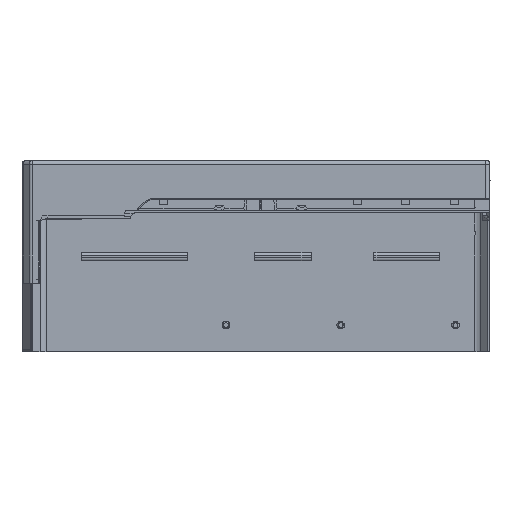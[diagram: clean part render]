
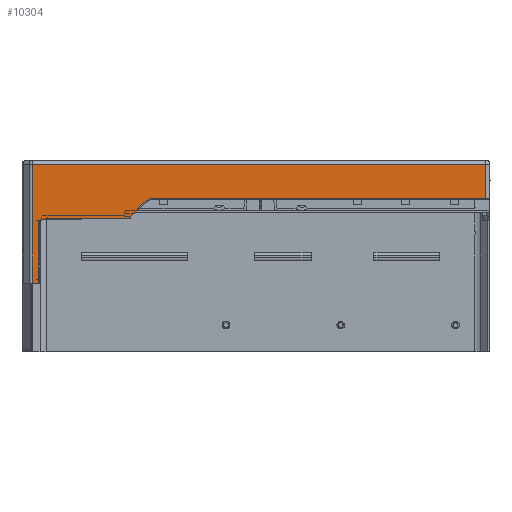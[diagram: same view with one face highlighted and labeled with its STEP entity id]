
A CAD part, front view. The second image highlights one B-rep face of the part: STEP entity #10304.
In plain terms, the highlighted planar face has unit normal (0, -1, 0).
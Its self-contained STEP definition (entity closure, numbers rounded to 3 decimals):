
#4262=CARTESIAN_POINT('',(-30.44,-165.,
18.825));
#4263=DIRECTION('',(0.,1.,0.));
#4264=DIRECTION('',(-0.98,0.,0.2));
#4265=AXIS2_PLACEMENT_3D('',#4262,#4263,#4264);
#4804=DIRECTION('',(-0.708,0.,-0.706));
#4805=VECTOR('',#4804,1.474);
#4806=CARTESIAN_POINT('',(-29.274,-165.,
22.993));
#4807=LINE('',#4806,#4805);
#4811=DIRECTION('',(0.,0.,-1.));
#4812=VECTOR('',#4811,0.428);
#4813=CARTESIAN_POINT('',(-30.612,-165.,
21.245));
#4814=LINE('',#4813,#4812);
#4818=DIRECTION('',(-1.,0.,0.));
#4819=VECTOR('',#4818,20.651);
#4820=CARTESIAN_POINT('',(-32.4,-165.,
19.224));
#4821=LINE('',#4820,#4819);
#4825=CARTESIAN_POINT('',(-53.051,-165.,
19.224));
#4826=CARTESIAN_POINT('',(-53.135,-165.,
19.224));
#4827=CARTESIAN_POINT('',(-53.31,-165.,
19.215));
#4828=CARTESIAN_POINT('',(-53.596,-165.,
19.17));
#4829=CARTESIAN_POINT('',(-53.903,-165.,
19.086));
#4830=CARTESIAN_POINT('',(-54.219,-165.,
18.962));
#4831=CARTESIAN_POINT('',(-54.517,-165.,
18.81));
#4832=CARTESIAN_POINT('',(-54.782,-165.,
18.645));
#4833=CARTESIAN_POINT('',(-54.935,-165.,
18.534));
#4834=CARTESIAN_POINT('',(-55.007,-165.,
18.479));
#4839=DIRECTION('',(1.,0.,0.));
#4840=VECTOR('',#4839,1.69);
#4841=CARTESIAN_POINT('',(-56.697,-165.,
3.2));
#4842=LINE('',#4841,#4840);
#4846=DIRECTION('',(0.,0.,1.));
#4847=VECTOR('',#4846,29.5);
#4848=CARTESIAN_POINT('',(-56.697,-165.,
3.2));
#4849=LINE('',#4848,#4847);
#4853=DIRECTION('',(1.,0.,0.));
#4854=VECTOR('',#4853,112.697);
#4855=CARTESIAN_POINT('',(-56.697,-165.,32.7));
#4856=LINE('',#4855,#4854);
#4860=DIRECTION('',(0.,0.,1.));
#4861=VECTOR('',#4860,8.5);
#4862=CARTESIAN_POINT('',(56.,-165.,24.2));
#4863=LINE('',#4862,#4861);
#4867=DIRECTION('',(-1.,0.,0.));
#4868=VECTOR('',#4867,82.765);
#4869=CARTESIAN_POINT('',(56.,-165.,24.2));
#4870=LINE('',#4869,#4868);
#4874=CARTESIAN_POINT('',(-26.765,-165.,
24.2));
#4875=CARTESIAN_POINT('',(-27.005,-165.,
24.2));
#4876=CARTESIAN_POINT('',(-27.493,-165.,
24.118));
#4877=CARTESIAN_POINT('',(-28.145,-165.,
23.816));
#4878=CARTESIAN_POINT('',(-28.73,-165.,
23.421));
#4879=CARTESIAN_POINT('',(-29.093,-165.,
23.136));
#4880=CARTESIAN_POINT('',(-29.274,-165.,
22.993));
#5126=CARTESIAN_POINT('',(-29.612,-165.,
21.245));
#5127=DIRECTION('',(0.,1.,0.));
#5128=DIRECTION('',(-1.,0.,0.));
#5129=AXIS2_PLACEMENT_3D('',#5126,#5127,#5128);
#5140=CARTESIAN_POINT('',(-32.4,-165.,
19.224));
#5223=DIRECTION('',(0.,0.,1.));
#5224=VECTOR('',#5223,15.279);
#5225=CARTESIAN_POINT('',(-55.007,-165.,
3.2));
#5226=LINE('',#5225,#5224);
#6238=VERTEX_POINT('',#4825);
#6239=VERTEX_POINT('',#4834);
#6242=CARTESIAN_POINT('',(56.,-165.,32.7));
#6244=VERTEX_POINT('',#6242);
#6250=CARTESIAN_POINT('',(-56.697,-165.,32.7));
#6251=VERTEX_POINT('',#6250);
#6378=CARTESIAN_POINT('',(-55.007,-165.,
3.2));
#6379=VERTEX_POINT('',#6378);
#6380=CARTESIAN_POINT('',(-56.697,-165.,
3.2));
#6381=VERTEX_POINT('',#6380);
#6412=VERTEX_POINT('',#5140);
#6496=CARTESIAN_POINT('',(56.,-165.,24.2));
#6497=CARTESIAN_POINT('',(-26.765,-165.,
24.2));
#6498=VERTEX_POINT('',#6496);
#6499=VERTEX_POINT('',#6497);
#6500=VERTEX_POINT('',#4880);
#6501=CARTESIAN_POINT('',(-30.612,-165.,
20.817));
#6502=VERTEX_POINT('',#6501);
#6526=CARTESIAN_POINT('',(-30.318,-165.,
21.953));
#6527=VERTEX_POINT('',#6526);
#6528=CARTESIAN_POINT('',(-30.612,-165.,
21.245));
#6529=VERTEX_POINT('',#6528);
#10275=CARTESIAN_POINT('',(-59.2,-165.,33.7));
#10276=DIRECTION('',(0.,-1.,0.));
#10277=DIRECTION('',(1.,0.,0.));
#10278=AXIS2_PLACEMENT_3D('',#10275,#10276,#10277);
#10279=PLANE('',#10278);
#10281=ORIENTED_EDGE('',*,*,#10280,.T.);
#10283=ORIENTED_EDGE('',*,*,#10282,.F.);
#10284=ORIENTED_EDGE('',*,*,#9625,.T.);
#10285=ORIENTED_EDGE('',*,*,#9647,.F.);
#10287=ORIENTED_EDGE('',*,*,#10286,.T.);
#10289=ORIENTED_EDGE('',*,*,#10288,.T.);
#10291=ORIENTED_EDGE('',*,*,#10290,.F.);
#10292=ORIENTED_EDGE('',*,*,#10089,.F.);
#10293=ORIENTED_EDGE('',*,*,#10266,.T.);
#10295=ORIENTED_EDGE('',*,*,#10294,.T.);
#10297=ORIENTED_EDGE('',*,*,#10296,.F.);
#10299=ORIENTED_EDGE('',*,*,#10298,.T.);
#10301=ORIENTED_EDGE('',*,*,#10300,.T.);
#10302=EDGE_LOOP('',(#10281,#10283,#10284,#10285,#10287,#10289,#10291,#10292,
#10293,#10295,#10297,#10299,#10301));
#10303=FACE_OUTER_BOUND('',#10302,.F.);
#4266=CIRCLE('',#4265,2.);
#4835=B_SPLINE_CURVE_WITH_KNOTS('',3,(#4825,#4826,#4827,#4828,#4829,#4830,#4831,
#4832,#4833,#4834),.UNSPECIFIED.,.F.,.F.,(4,1,1,1,1,1,1,4),(0.,
0.143,0.286,0.429,0.571,
0.714,0.857,1.),.UNSPECIFIED.);
#4881=B_SPLINE_CURVE_WITH_KNOTS('',3,(#4874,#4875,#4876,#4877,#4878,#4879,
#4880),.UNSPECIFIED.,.F.,.F.,(4,1,1,1,4),(0.,0.222,
0.462,0.723,1.),.UNSPECIFIED.);
#5130=CIRCLE('',#5129,1.);
#9625=EDGE_CURVE('',#6529,#6502,#4814,.T.);
#9647=EDGE_CURVE('',#6412,#6502,#4266,.T.);
#10089=EDGE_CURVE('',#6381,#6379,#4842,.T.);
#10266=EDGE_CURVE('',#6381,#6251,#4849,.T.);
#10280=EDGE_CURVE('',#6500,#6527,#4807,.T.);
#10282=EDGE_CURVE('',#6529,#6527,#5130,.T.);
#10286=EDGE_CURVE('',#6412,#6238,#4821,.T.);
#10288=EDGE_CURVE('',#6238,#6239,#4835,.T.);
#10290=EDGE_CURVE('',#6379,#6239,#5226,.T.);
#10294=EDGE_CURVE('',#6251,#6244,#4856,.T.);
#10296=EDGE_CURVE('',#6498,#6244,#4863,.T.);
#10298=EDGE_CURVE('',#6498,#6499,#4870,.T.);
#10300=EDGE_CURVE('',#6499,#6500,#4881,.T.);
#10304=ADVANCED_FACE('',(#10303),#10279,.T.);
